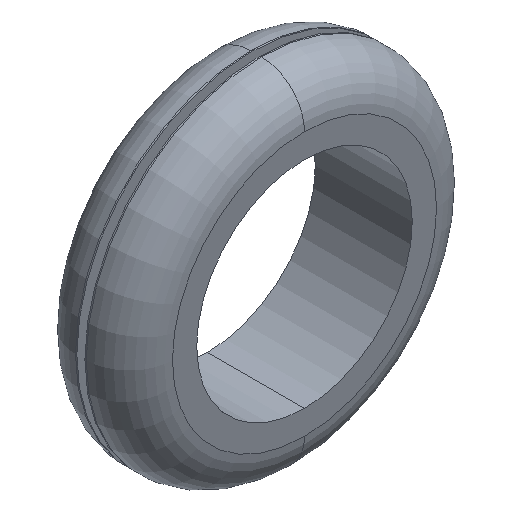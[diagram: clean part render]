
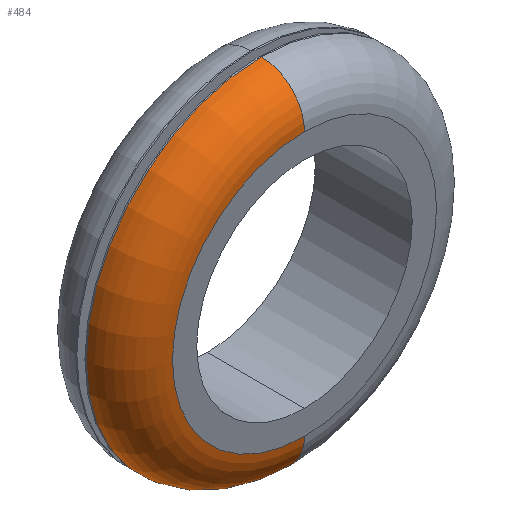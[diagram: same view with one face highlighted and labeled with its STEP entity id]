
A CAD part, isometric view. The second image highlights one B-rep face of the part: STEP entity #484.
In plain terms, the highlighted toroidal (fillet/blend) face has major radius 24.5 mm and minor radius 8 mm.
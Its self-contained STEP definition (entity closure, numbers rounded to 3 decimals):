
#102 = EDGE_CURVE ( 'NONE', #491, #394, #423, .T. ) ;
#114 = ORIENTED_EDGE ( 'NONE', *, *, #498, .F. ) ;
#161 = CARTESIAN_POINT ( 'NONE',  ( 0., -1., -32.5 ) ) ;
#228 = EDGE_CURVE ( 'NONE', #505, #265, #335, .T. ) ;
#265 = VERTEX_POINT ( 'NONE', #375 ) ;
#266 = EDGE_CURVE ( 'NONE', #394, #265, #377, .T. ) ;
#324 = FACE_OUTER_BOUND ( 'NONE', #466, .T. ) ;
#325 = TOROIDAL_SURFACE ( 'NONE', #326, 24.5, 8. ) ;
#326 = AXIS2_PLACEMENT_3D ( 'NONE', #327, #328, #329 ) ;
#327 = CARTESIAN_POINT ( 'NONE',  ( 0., -1., 0. ) ) ;
#328 = DIRECTION ( 'NONE',  ( 0., -1., 0. ) ) ;
#329 = DIRECTION ( 'NONE',  ( 0., 0., -1. ) ) ;
#335 = CIRCLE ( 'NONE', #336, 8. ) ;
#336 = AXIS2_PLACEMENT_3D ( 'NONE', #337, #338, #343 ) ;
#337 = CARTESIAN_POINT ( 'NONE',  ( 0., -1., -24.5 ) ) ;
#338 = DIRECTION ( 'NONE',  ( -1., 0., 0. ) ) ;
#343 = DIRECTION ( 'NONE',  ( 0., 0., 1. ) ) ;
#375 = CARTESIAN_POINT ( 'NONE',  ( 0., -9., -24.5 ) ) ;
#377 = CIRCLE ( 'NONE', #378, 24.5 ) ;
#378 = AXIS2_PLACEMENT_3D ( 'NONE', #379, #380, #381 ) ;
#379 = CARTESIAN_POINT ( 'NONE',  ( 0., -9., 0. ) ) ;
#380 = DIRECTION ( 'NONE',  ( 0., -1., 0. ) ) ;
#381 = DIRECTION ( 'NONE',  ( 0., 0., -1. ) ) ;
#394 = VERTEX_POINT ( 'NONE', #422 ) ;
#399 = CARTESIAN_POINT ( 'NONE',  ( 0., -1., 32.5 ) ) ;
#422 = CARTESIAN_POINT ( 'NONE',  ( 0., -9., 24.5 ) ) ;
#423 = CIRCLE ( 'NONE', #424, 8. ) ;
#424 = AXIS2_PLACEMENT_3D ( 'NONE', #425, #426, #427 ) ;
#425 = CARTESIAN_POINT ( 'NONE',  ( 0., -1., 24.5 ) ) ;
#426 = DIRECTION ( 'NONE',  ( 1., 0., 0. ) ) ;
#427 = DIRECTION ( 'NONE',  ( 0., 0., -1. ) ) ;
#435 = CIRCLE ( 'NONE', #436, 32.5 ) ;
#436 = AXIS2_PLACEMENT_3D ( 'NONE', #437, #438, #439 ) ;
#437 = CARTESIAN_POINT ( 'NONE',  ( 0., -1., 0. ) ) ;
#438 = DIRECTION ( 'NONE',  ( 0., 1., 0. ) ) ;
#439 = DIRECTION ( 'NONE',  ( 0., 0., -1. ) ) ;
#461 = ORIENTED_EDGE ( 'NONE', *, *, #102, .F. ) ;
#466 = EDGE_LOOP ( 'NONE', ( #461, #114, #513, #478 ) ) ;
#478 = ORIENTED_EDGE ( 'NONE', *, *, #266, .F. ) ;
#484 = ADVANCED_FACE ( 'NONE', ( #324 ), #325, .T. ) ;
#491 = VERTEX_POINT ( 'NONE', #399 ) ;
#498 = EDGE_CURVE ( 'NONE', #505, #491, #435, .T. ) ;
#505 = VERTEX_POINT ( 'NONE', #161 ) ;
#513 = ORIENTED_EDGE ( 'NONE', *, *, #228, .T. ) ;
